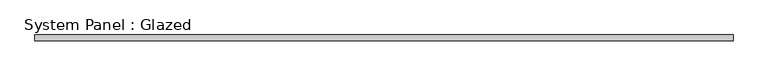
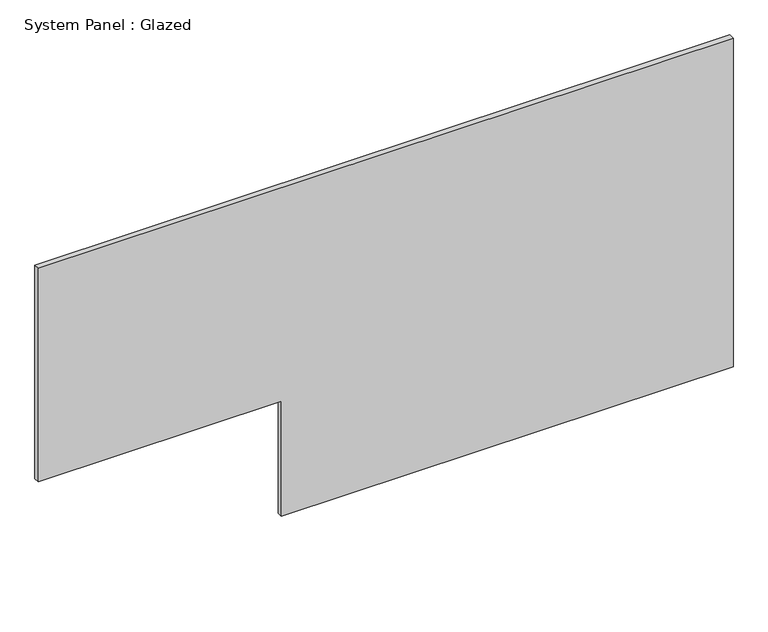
"""IFC4 building model written with IfcOpenShell, lengths in millimetres: plate geometry, System Panel : Glazed."""

from ifc_helpers import new_model, si_unit, frame, origin, place, context, project, spatial, polyline, outline, extrude, source, transform, mapped, element, save


def system_panel_glazed_c471499d(model_context):
    return source(origin(), model_context, "Body", "SweptSolid", [
        extrude(outline(polyline([(0.0, -457.2), (0.0, 1524.0), (1524.0, 1524.0), (1524.0, -1524.0), (533.0898546, -1524.0), (533.0898546, -457.2), (0.0, -457.2)])), frame((0.0, 19.05, 0.0), z_axis=(0.0, 1.0, 0.0), x_axis=(0.0, 0.0, 1.0)), (0.0, 0.0, 1.0), 25.4),
    ])


if __name__ == "__main__":
    model = new_model("IFC4")
    model_context = context("Model", 3, world=origin())
    ifc_project = project(units=[si_unit("LENGTHUNIT", "METRE", prefix="MILLI")], contexts=[model_context])
    site = spatial("IfcSite", under=ifc_project)
    building = spatial("IfcBuilding", under=site)
    placement = place(None, origin())
    system_panel_glazed_shape = system_panel_glazed_c471499d(model_context)
    element("IfcPlate", 1, ObjectType="System Panel : Glazed", at=placement, inside=building, context=model_context, shape_type="MappedRepresentation", body=[
        mapped(system_panel_glazed_shape, transform((0.0, 0.0, 0.0), x_axis=(1.0, 0.0, 0.0), y_axis=(0.0, 1.0, 0.0), z_axis=(0.0, 0.0, 1.0))),
    ])
    save(model, "model.ifc")
